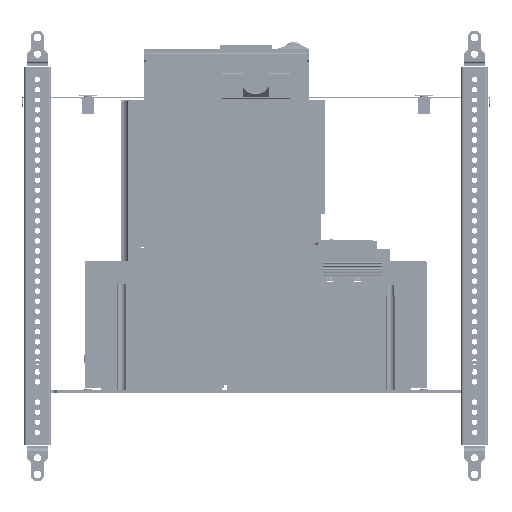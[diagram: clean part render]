
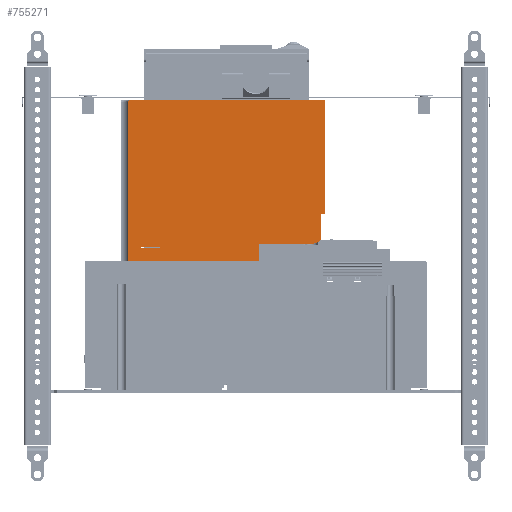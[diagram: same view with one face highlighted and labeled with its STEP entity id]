
A CAD part, left-side view. The second image highlights one B-rep face of the part: STEP entity #755271.
In plain terms, the highlighted planar face has unit normal (-1, 0, 0).
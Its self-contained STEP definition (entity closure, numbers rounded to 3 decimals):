
#752996=CARTESIAN_POINT(' ',(-214.261,96.633,149.853));
#752997=VERTEX_POINT(' ',#752996);
#753011=CARTESIAN_POINT(' ',(-214.261,96.633,149.853));
#753016=DIRECTION(' ',(0.,-1.,0.));
#753021=VECTOR(' ',#753016,1.);
#753026=LINE('',#753011,#753021);
#753031=CARTESIAN_POINT(' ',(-214.261,-47.067,149.853));
#753032=VERTEX_POINT(' ',#753031);
#753036=EDGE_CURVE(' ',#752997,#753032,#753026,.T.);
#754646=CARTESIAN_POINT(' ',(-214.261,98.133,148.353));
#754647=VERTEX_POINT(' ',#754646);
#754661=CARTESIAN_POINT(' ',(-214.261,96.633,148.353));
#754666=DIRECTION(' ',(-1.,0.,0.));
#754671=DIRECTION(' ',(0.,0.,1.));
#754676=AXIS2_PLACEMENT_3D(' ',#754661,#754666,#754671);
#754681=CIRCLE('',#754676,1.5);
#754686=EDGE_CURVE(' ',#752997,#754647,#754681,.T.);
#754716=DIRECTION(' ',(-1.,0.,-0.));
#754721=CARTESIAN_POINT(' ',(-214.261,98.133,30.353));
#754726=DIRECTION(' ',(0.,-1.,0.));
#754731=AXIS2_PLACEMENT_3D(' ',#754721,#754716,#754726);
#754736=PLANE('NONE',#754731);
#754741=ORIENTED_EDGE(' ',*,*,#753036,.F.);
#754746=ORIENTED_EDGE(' ',*,*,#754686,.T.);
#754751=CARTESIAN_POINT(' ',(-214.261,98.133,148.353));
#754756=DIRECTION(' ',(0.,0.,-1.));
#754761=VECTOR(' ',#754756,1.);
#754766=LINE('',#754751,#754761);
#754771=CARTESIAN_POINT(' ',(-214.261,98.133,30.353));
#754772=VERTEX_POINT(' ',#754771);
#754776=EDGE_CURVE(' ',#754647,#754772,#754766,.T.);
#754781=ORIENTED_EDGE(' ',*,*,#754776,.T.);
#754786=CARTESIAN_POINT(' ',(-214.261,98.133,30.353));
#754791=DIRECTION(' ',(0.,-1.,0.));
#754796=VECTOR(' ',#754791,1.);
#754801=LINE('',#754786,#754796);
#754806=CARTESIAN_POINT(' ',(-214.261,0.733,30.353));
#754807=VERTEX_POINT(' ',#754806);
#754811=EDGE_CURVE(' ',#754772,#754807,#754801,.T.);
#754816=ORIENTED_EDGE(' ',*,*,#754811,.T.);
#754821=CARTESIAN_POINT(' ',(-214.261,0.733,42.553));
#754826=DIRECTION(' ',(0.,0.,-1.));
#754831=VECTOR(' ',#754826,1.);
#754836=LINE('',#754821,#754831);
#754841=CARTESIAN_POINT(' ',(-214.261,0.733,42.553));
#754842=VERTEX_POINT(' ',#754841);
#754846=EDGE_CURVE(' ',#754842,#754807,#754836,.T.);
#754851=ORIENTED_EDGE(' ',*,*,#754846,.F.);
#754856=CARTESIAN_POINT(' ',(-214.261,-36.067,42.553));
#754861=DIRECTION(' ',(0.,1.,0.));
#754866=VECTOR(' ',#754861,1.);
#754871=LINE('',#754856,#754866);
#754876=CARTESIAN_POINT(' ',(-214.261,-36.067,42.553));
#754877=VERTEX_POINT(' ',#754876);
#754881=EDGE_CURVE(' ',#754877,#754842,#754871,.T.);
#754886=ORIENTED_EDGE(' ',*,*,#754881,.F.);
#754891=CARTESIAN_POINT(' ',(-214.261,-36.067,57.553));
#754896=DIRECTION(' ',(-1.,0.,0.));
#754901=DIRECTION(' ',(0.,0.,-1.));
#754906=AXIS2_PLACEMENT_3D(' ',#754891,#754896,#754901);
#754911=CIRCLE('',#754906,15.);
#754916=CARTESIAN_POINT(' ',(-214.261,-44.401,45.081));
#754917=VERTEX_POINT(' ',#754916);
#754921=EDGE_CURVE(' ',#754877,#754917,#754911,.T.);
#754926=ORIENTED_EDGE(' ',*,*,#754921,.T.);
#754931=CARTESIAN_POINT(' ',(-214.261,-43.567,46.328));
#754936=DIRECTION(' ',(-1.,0.,0.));
#754941=DIRECTION(' ',(0.,-0.556,-0.831));
#754946=AXIS2_PLACEMENT_3D(' ',#754931,#754936,#754941);
#754951=CIRCLE('',#754946,1.5);
#754956=CARTESIAN_POINT(' ',(-214.261,-45.067,46.328));
#754957=VERTEX_POINT(' ',#754956);
#754961=EDGE_CURVE(' ',#754917,#754957,#754951,.T.);
#754966=ORIENTED_EDGE(' ',*,*,#754961,.T.);
#754971=CARTESIAN_POINT(' ',(-214.261,-45.067,64.853));
#754976=DIRECTION(' ',(0.,0.,-1.));
#754981=VECTOR(' ',#754976,1.);
#754986=LINE('',#754971,#754981);
#754991=CARTESIAN_POINT(' ',(-214.261,-45.067,64.853));
#754992=VERTEX_POINT(' ',#754991);
#754996=EDGE_CURVE(' ',#754992,#754957,#754986,.T.);
#755001=ORIENTED_EDGE(' ',*,*,#754996,.F.);
#755006=CARTESIAN_POINT(' ',(-214.261,-45.067,64.853));
#755011=DIRECTION(' ',(0.,-1.,0.));
#755016=VECTOR(' ',#755011,1.);
#755021=LINE('',#755006,#755016);
#755026=CARTESIAN_POINT(' ',(-214.261,-48.567,64.853));
#755027=VERTEX_POINT(' ',#755026);
#755031=EDGE_CURVE(' ',#754992,#755027,#755021,.T.);
#755036=ORIENTED_EDGE(' ',*,*,#755031,.T.);
#755041=CARTESIAN_POINT(' ',(-214.261,-48.567,148.353));
#755046=DIRECTION(' ',(0.,0.,-1.));
#755051=VECTOR(' ',#755046,1.);
#755056=LINE('',#755041,#755051);
#755061=CARTESIAN_POINT(' ',(-214.261,-48.567,148.353));
#755062=VERTEX_POINT(' ',#755061);
#755066=EDGE_CURVE(' ',#755062,#755027,#755056,.T.);
#755071=ORIENTED_EDGE(' ',*,*,#755066,.F.);
#755076=CARTESIAN_POINT(' ',(-214.261,-47.067,148.353));
#755081=DIRECTION(' ',(-1.,0.,-0.));
#755086=DIRECTION(' ',(0.,-1.,0.));
#755091=AXIS2_PLACEMENT_3D(' ',#755076,#755081,#755086);
#755096=CIRCLE('',#755091,1.5);
#755101=EDGE_CURVE(' ',#755062,#753032,#755096,.T.);
#755106=ORIENTED_EDGE(' ',*,*,#755101,.T.);
#755111=EDGE_LOOP(' ',(#754741,#754746,#754781,#754816,#754851,#754886,#754926,#754966,#755001,#755036,#755071,#755106));
#755116=FACE_OUTER_BOUND(' ',#755111,.T.);
#755121=CARTESIAN_POINT(' ',(-214.261,74.633,40.853));
#755126=DIRECTION(' ',(0.,1.,0.));
#755131=VECTOR(' ',#755126,1.);
#755136=LINE('',#755121,#755131);
#755141=CARTESIAN_POINT(' ',(-214.261,74.633,40.853));
#755142=VERTEX_POINT(' ',#755141);
#755146=CARTESIAN_POINT(' ',(-214.261,88.633,40.853));
#755147=VERTEX_POINT(' ',#755146);
#755151=EDGE_CURVE(' ',#755142,#755147,#755136,.T.);
#755156=ORIENTED_EDGE(' ',*,*,#755151,.F.);
#755161=CARTESIAN_POINT(' ',(-214.261,74.633,39.853));
#755166=DIRECTION(' ',(0.,0.,1.));
#755171=VECTOR(' ',#755166,1.);
#755176=LINE('',#755161,#755171);
#755181=CARTESIAN_POINT(' ',(-214.261,74.633,39.853));
#755182=VERTEX_POINT(' ',#755181);
#755186=EDGE_CURVE(' ',#755182,#755142,#755176,.T.);
#755191=ORIENTED_EDGE(' ',*,*,#755186,.F.);
#755196=CARTESIAN_POINT(' ',(-214.261,88.633,39.853));
#755201=DIRECTION(' ',(0.,-1.,0.));
#755206=VECTOR(' ',#755201,1.);
#755211=LINE('',#755196,#755206);
#755216=CARTESIAN_POINT(' ',(-214.261,88.633,39.853));
#755217=VERTEX_POINT(' ',#755216);
#755221=EDGE_CURVE(' ',#755217,#755182,#755211,.T.);
#755226=ORIENTED_EDGE(' ',*,*,#755221,.F.);
#755231=CARTESIAN_POINT(' ',(-214.261,88.633,40.853));
#755236=DIRECTION(' ',(0.,0.,-1.));
#755241=VECTOR(' ',#755236,1.);
#755246=LINE('',#755231,#755241);
#755251=EDGE_CURVE(' ',#755147,#755217,#755246,.T.);
#755256=ORIENTED_EDGE(' ',*,*,#755251,.F.);
#755261=EDGE_LOOP(' ',(#755156,#755191,#755226,#755256));
#755266=FACE_BOUND(' ',#755261,.T.);
#755271=ADVANCED_FACE('NONE',(#755116,#755266),#754736,.T.);
